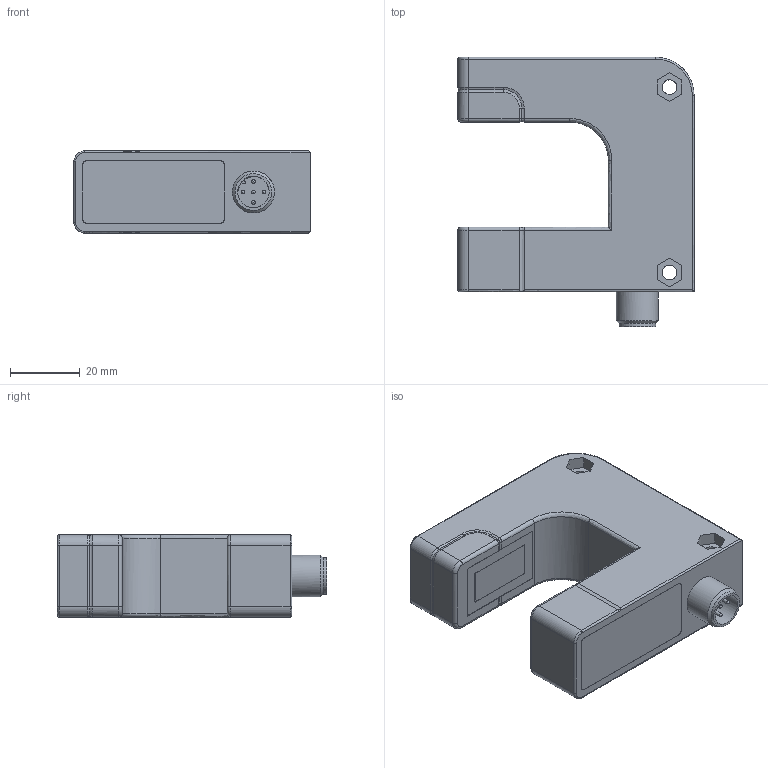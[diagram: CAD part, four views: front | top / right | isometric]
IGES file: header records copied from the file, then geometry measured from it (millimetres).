
Global section: file name: No Iges File Name specified; native system: Autodesk Inventor 2013; preprocessor: AutoDesk Inventor Iges Exporter R2013; author: Oliver Liedtke; date: 20151110.103218; units: millimetre
Bounding box: 67.51 x 77.06 x 23.5 mm (x, y, z)
Volume: 74966.1 mm3; surface area: 15833.1 mm2
Topology: 1 solids, 1 shells, 639 faces, 1664 edges, 1086 vertices
Faces by surface type: bspline 639
